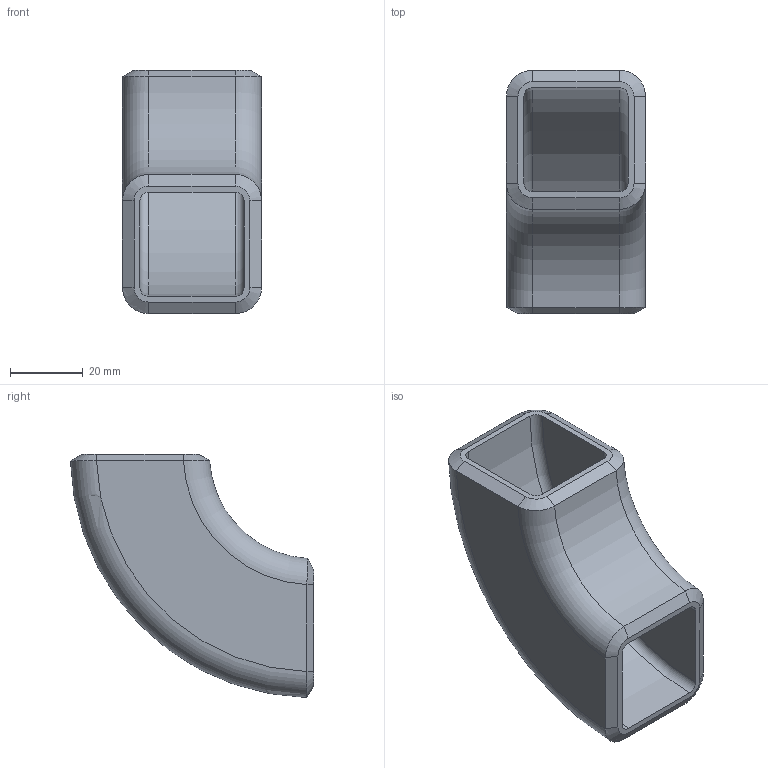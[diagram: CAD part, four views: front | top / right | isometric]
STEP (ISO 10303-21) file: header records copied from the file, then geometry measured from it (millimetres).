
FILE_DESCRIPTION((''),'2;1');
FILE_NAME('C:\Documents and Settings\bamfomg\Desktop\Owens corners\STP FILES\1.5x1.5x0.1875 - Steel.stp','2011-03-21T13:13:51',('bamfomg'),(''),'Autodesk Inventor 2011','Autodesk Inventor 2011','');
FILE_SCHEMA(('AUTOMOTIVE_DESIGN { 1 0 10303 214 1 1 1 1 }'));
Length unit declared in the file: inch
Products named in the file (1): Square Tube Corners
Bounding box: 38.1 x 66.65 x 66.65 mm (x, y, z)
Volume: 43854.3 mm3; surface area: 19547.9 mm2
Topology: 1 solids, 1 shells, 34 faces, 80 edges, 48 vertices
Faces by surface type: bspline 16, torus 8, plane 6, cylinder 4
Entity records: 1502 total; most frequent: CARTESIAN_POINT 817, ORIENTED_EDGE 160, DIRECTION 94, EDGE_CURVE 80, VERTEX_POINT 48, B_SPLINE_CURVE_WITH_KNOTS 46, AXIS2_PLACEMENT_3D 43, EDGE_LOOP 36
